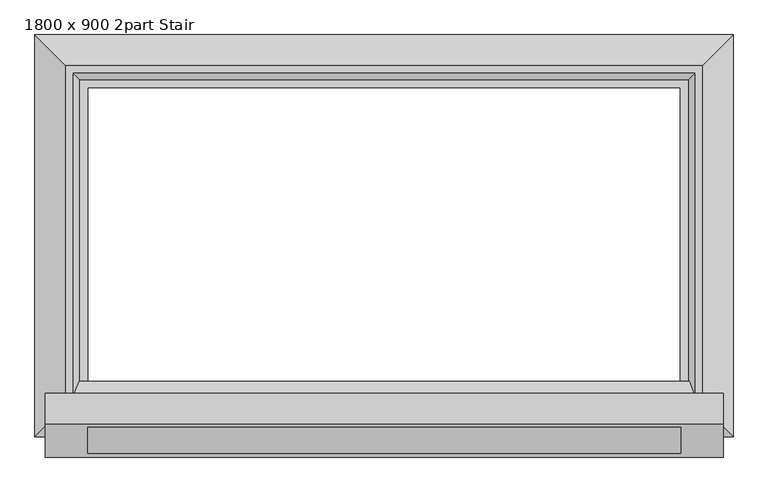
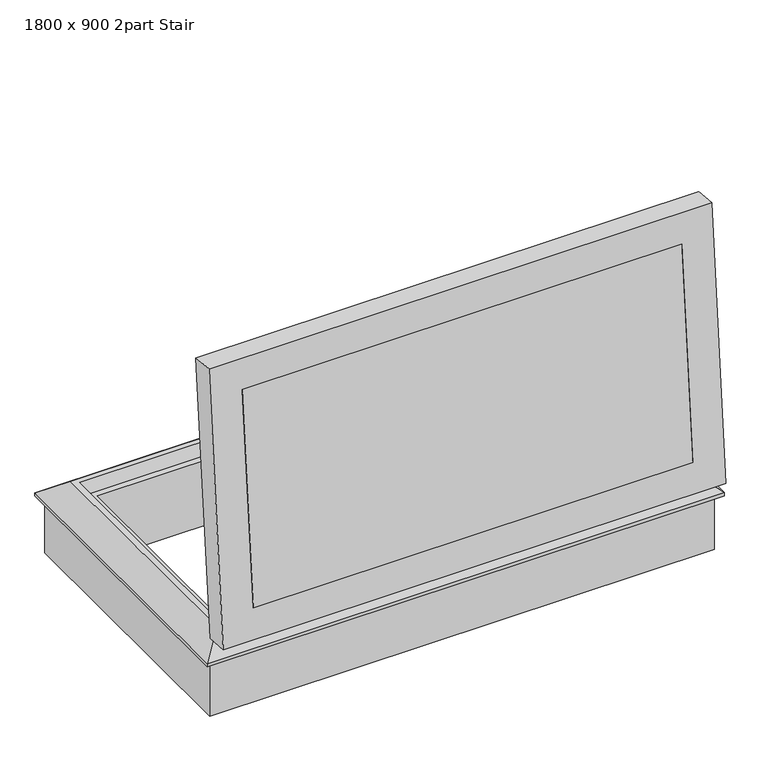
"""IFC4 building model written with IfcOpenShell, lengths in millimetres: proxy geometry, 4_Topaccess_dakluik_1800x900_Staka : 1800 x 900 2part Stair."""

from ifc_helpers import new_model, si_unit, point, frame, frame_2d, origin, place, context, project, spatial, polyline, circle_curve, trimmed, segment, composite_curve, outline, extrude, faceted_brep, source, transform, mapped, element, save


def proxy_1800_x_900_2part_stair_702ff97d(model_context):
    return source(origin(), model_context, "Body", "SolidModel", [
        extrude(outline(composite_curve([segment(polyline([(-302.711611, 315.0730348), (-349.5637396, 277.5913319), (-356.6205052, 286.4122889)]), True, "CONTINUOUS"), segment(trimmed(circle_curve(frame_2d((-342.0155368, 294.972668)), 16.9288273), [point((-356.6205052, 286.4122889))], [point((-358.9229191, 295.8244977))], False, "CARTESIAN"), True, "CONTINUOUS"), segment(polyline([(-358.9229191, 295.8244977), (-354.6794851, 338.8702959)]), True, "CONTINUOUS"), segment(trimmed(circle_curve(frame_2d((-348.2257803, 336.7195897)), 6.8026351), [point((-354.6794851, 338.8702959))], [point((-341.4884418, 335.7793158))], False, "CARTESIAN"), True, "CONTINUOUS"), segment(trimmed(circle_curve(frame_2d((-333.9382435, 334.7255979)), 7.623373), [point((-341.4884418, 335.7793158))], [point((-336.5780951, 327.5738849))], True, "CARTESIAN"), True, "CONTINUOUS"), segment(polyline([(-336.5780951, 327.5738849), (-302.711611, 315.0730348)]), True, "CONTINUOUS")], self_intersect=False)), frame((-1631.2697623, 0.0, 0.0), z_axis=(1.0, 0.0, 0.0), x_axis=(0.0, 1.0, 0.0)), (0.0, 0.0, 1.0), 36.756804),
        extrude(outline(composite_curve([segment(polyline([(-302.711611, 315.0730348), (-349.5637396, 277.5913319), (-356.6205052, 286.4122889)]), True, "CONTINUOUS"), segment(trimmed(circle_curve(frame_2d((-342.0155368, 294.972668)), 16.9288273), [point((-356.6205052, 286.4122889))], [point((-358.9229191, 295.8244977))], False, "CARTESIAN"), True, "CONTINUOUS"), segment(polyline([(-358.9229191, 295.8244977), (-354.6794851, 338.8702959)]), True, "CONTINUOUS"), segment(trimmed(circle_curve(frame_2d((-348.2257803, 336.7195897)), 6.8026351), [point((-354.6794851, 338.8702959))], [point((-341.4884418, 335.7793158))], False, "CARTESIAN"), True, "CONTINUOUS"), segment(trimmed(circle_curve(frame_2d((-333.9382435, 334.7255979)), 7.623373), [point((-341.4884418, 335.7793158))], [point((-336.5780951, 327.5738849))], True, "CARTESIAN"), True, "CONTINUOUS"), segment(polyline([(-336.5780951, 327.5738849), (-302.711611, 315.0730348)]), True, "CONTINUOUS")], self_intersect=False)), frame((133.4587171, 0.0, 0.0), z_axis=(1.0, 0.0, 0.0), x_axis=(0.0, 1.0, 0.0)), (0.0, 0.0, 1.0), 35.2715206),
        faceted_brep([(238.7302377, 753.4470955, 328.0), (330.7302377, 845.4470955, 254.4), (-1793.2697623, 845.4470955, 254.4), (-1701.2697623, 753.4470955, 328.0), (194.7302377, 709.4470955, 282.0), (214.2560792, 728.9729371, 328.0), (-1676.7956039, 728.9729371, 328.0), (-1657.2697623, 709.4470955, 282.0), (168.7302377, 683.4470955, 0.0), (168.7302377, 683.4470955, 282.0), (-1631.2697623, 683.4470955, 282.0), (-1631.2697623, 683.4470955, 0.0), (304.7302377, 819.4470955, 240.0), (304.7302377, 819.4470955, 0.0), (-1767.2697623, 819.4470955, 0.0), (-1767.2697623, 819.4470955, 240.0), (330.7302377, 845.4470955, 240.0), (-1793.2697623, 845.4470955, 240.0), (-1793.2697623, -378.5529045, 254.4), (-1701.2697623, -286.5529045, 328.0), (-1676.7956039, -262.078746, 328.0), (-1657.2697623, -242.5529045, 282.0), (-1631.2697623, -216.5529045, 282.0), (-1631.2697623, -216.5529045, 0.0), (-1767.2697623, -352.5529045, 0.0), (-1767.2697623, -352.5529045, 240.0), (-1793.2697623, -378.5529045, 240.0), (330.7302377, -378.5529045, 254.4), (238.7302377, -286.5529045, 328.0), (214.2560792, -262.078746, 328.0), (194.7302377, -242.5529045, 282.0), (168.7302377, -216.5529045, 282.0), (168.7302377, -216.5529045, 0.0), (304.7302377, -352.5529045, 0.0), (304.7302377, -352.5529045, 240.0), (330.7302377, -378.5529045, 240.0)], [[[0, 1, 2, 3]], [[4, 5, 6, 7]], [[8, 9, 10, 11]], [[12, 13, 14, 15]], [[1, 16, 17, 2]], [[3, 2, 18, 19]], [[7, 6, 20, 21]], [[11, 10, 22, 23]], [[15, 14, 24, 25]], [[2, 17, 26, 18]], [[19, 18, 27, 28]], [[21, 20, 29, 30]], [[23, 22, 31, 32]], [[25, 24, 33, 34]], [[18, 26, 35, 27]], [[28, 27, 1, 0]], [[3, 19, 28, 0], [5, 29, 20, 6]], [[30, 29, 5, 4]], [[7, 21, 30, 4], [9, 31, 22, 10]], [[32, 31, 9, 8]], [[13, 33, 24, 14], [11, 23, 32, 8]], [[34, 33, 13, 12]], [[16, 35, 26, 17], [15, 25, 34, 12]], [[27, 35, 16, 1]]]),
        extrude(outline(polyline([(0.0, -1805.0), (0.0, 0.0), (139.4, 0.0), (139.4, -1805.0), (0.0, -1805.0)])), frame((-1633.2725908, -428.8183427, 470.0146001), z_axis=(0.0, 0.08715574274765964, 0.9961946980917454), x_axis=(0.0, 0.9961946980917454, -0.08715574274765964)), (0.0, 0.0, 1.0), 904.0),
        faceted_brep([(171.7274092, -211.1600104, 1358.4250967), (171.7274092, -350.0295513, 1370.5746072), (-1633.2725908, -350.0295513, 1370.5746072), (-1633.2725908, -211.1600104, 1358.4250967), (214.7274092, -253.6357474, 1405.3054951), (197.1274092, -208.9462545, 1383.728442), (-1658.6725908, -208.9462545, 1383.728442), (-1676.2725908, -253.6357474, 1405.3054951), (300.7274092, -338.7864605, 1499.0837233), (300.7274092, -246.1403535, 1490.9782392), (-1762.2725908, -246.1403535, 1490.9782392), (-1762.2725908, -338.7864605, 1499.0837233), (-1633.2725908, -428.8183427, 470.0146001), (-1633.2725908, -289.9488018, 457.8650896), (-1658.6725908, -292.1625577, 432.5617443), (-1676.2725908, -339.9199327, 419.072744), (-1762.2725908, -347.4153266, 333.4), (-1762.2725908, -440.0614335, 341.5054841), (171.7274092, -428.8183427, 470.0146001), (171.7274092, -289.9488018, 457.8650896), (197.1274092, -292.1625577, 432.5617443), (214.7274092, -339.9199327, 419.072744), (300.7274092, -347.4153266, 333.4), (300.7274092, -440.0614335, 341.5054841)], [[[0, 1, 2, 3]], [[4, 5, 6, 7]], [[8, 9, 10, 11]], [[3, 2, 12, 13]], [[7, 6, 14, 15]], [[11, 10, 16, 17]], [[13, 12, 18, 19]], [[15, 14, 20, 21]], [[17, 16, 22, 23]], [[19, 18, 1, 0]], [[5, 20, 14, 6], [3, 13, 19, 0]], [[21, 20, 5, 4]], [[9, 22, 16, 10], [7, 15, 21, 4]], [[23, 22, 9, 8]], [[11, 17, 23, 8], [1, 18, 12, 2]]]),
    ])


if __name__ == "__main__":
    model = new_model("IFC4")
    model_context = context("Model", 3, world=origin())
    ifc_project = project(units=[si_unit("LENGTHUNIT", "METRE", prefix="MILLI")], contexts=[model_context])
    site = spatial("IfcSite", under=ifc_project)
    building = spatial("IfcBuilding", under=site)
    placement = place(None, origin())
    proxy_1800_x_900_2part_stair_shape = proxy_1800_x_900_2part_stair_702ff97d(model_context)
    element("IfcBuildingElementProxy", 1, Name="4_Topaccess_dakluik_1800x900_Staka : 1800 x 900 2part Stair", ObjectType="4_Topaccess_dakluik_1800x900_Staka : 1800 x 900 2part Stair", at=placement, inside=building, context=model_context, shape_type="MappedRepresentation", body=[
        mapped(proxy_1800_x_900_2part_stair_shape, transform((0.0, 0.0, 0.0), x_axis=(1.0, 0.0, 0.0), y_axis=(0.0, 1.0, 0.0), z_axis=(0.0, 0.0, 1.0))),
    ])
    save(model, "model.ifc")
